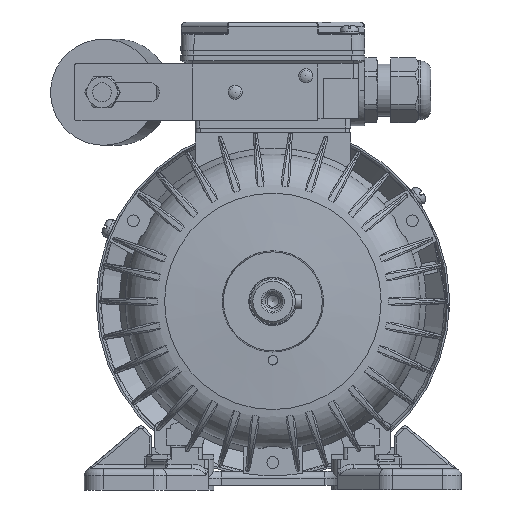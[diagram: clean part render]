
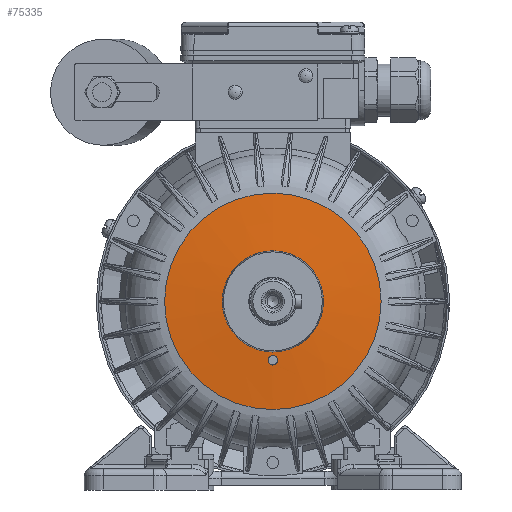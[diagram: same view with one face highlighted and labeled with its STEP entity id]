
A CAD part, left-side view. The second image highlights one B-rep face of the part: STEP entity #75335.
In plain terms, the highlighted conical face has half-angle 85.5 degrees and reference radius 21.472 mm.
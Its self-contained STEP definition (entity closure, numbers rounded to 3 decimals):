
#518=CONICAL_SURFACE('',#79708,21.472,1.492);
#10792=B_SPLINE_CURVE_WITH_KNOTS('',3,(#116865,#116866,#116867,#116868,
#116869,#116870,#116871,#116872,#116873,#116874,#116875),.UNSPECIFIED.,
 .T.,.F.,(1,1,1,1,1,1,1,1,1,1,1,1,1,1,1),(-0.005,-0.003,
-0.002,0.,0.002,0.003,
0.005,0.006,0.008,0.009,
0.011,0.013,0.014,0.016,
0.017),.UNSPECIFIED.);
#21319=ORIENTED_EDGE('',*,*,#33476,.F.);
#21320=ORIENTED_EDGE('',*,*,#33205,.T.);
#21321=ORIENTED_EDGE('',*,*,#33477,.T.);
#33205=EDGE_CURVE('',#40128,#40128,#44050,.T.);
#33476=EDGE_CURVE('',#40244,#40244,#44125,.T.);
#33477=EDGE_CURVE('',#40245,#40245,#10792,.T.);
#40128=VERTEX_POINT('',#113365);
#40244=VERTEX_POINT('',#116864);
#40245=VERTEX_POINT('',#116876);
#44050=CIRCLE('',#79479,45.912);
#44125=CIRCLE('',#79709,21.472);
#46990=EDGE_LOOP('',(#21319));
#46991=EDGE_LOOP('',(#21320));
#46992=EDGE_LOOP('',(#21321));
#50524=FACE_BOUND('',#46990,.T.);
#50525=FACE_BOUND('',#46991,.T.);
#50526=FACE_BOUND('',#46992,.T.);
#75335=ADVANCED_FACE('',(#50524,#50525,#50526),#518,.T.);
#79479=AXIS2_PLACEMENT_3D('',#113364,#89756,#89757);
#79708=AXIS2_PLACEMENT_3D('',#116862,#90307,#90308);
#79709=AXIS2_PLACEMENT_3D('',#116863,#90309,#90310);
#89756=DIRECTION('',(-1.,0.,0.));
#89757=DIRECTION('',(0.,0.,-1.));
#90307=DIRECTION('',(1.,0.,0.));
#90308=DIRECTION('',(0.,0.,1.));
#90309=DIRECTION('',(-1.,0.,0.));
#90310=DIRECTION('',(0.,0.,-1.));
#113364=CARTESIAN_POINT('',(-33.077,0.,0.));
#113365=CARTESIAN_POINT('',(-33.077,0.,-45.912));
#116862=CARTESIAN_POINT('',(-35.,0.,0.));
#116863=CARTESIAN_POINT('',(-35.,0.,0.));
#116864=CARTESIAN_POINT('',(-35.,0.,-21.472));
#116865=CARTESIAN_POINT('',(-34.549,-0.01,-27.218));
#116866=CARTESIAN_POINT('',(-34.596,1.564,-26.571));
#116867=CARTESIAN_POINT('',(-34.714,2.215,-25.007));
#116868=CARTESIAN_POINT('',(-34.841,1.576,-23.442));
#116869=CARTESIAN_POINT('',(-34.899,0.01,-22.782));
#116870=CARTESIAN_POINT('',(-34.843,-1.563,-23.429));
#116871=CARTESIAN_POINT('',(-34.715,-2.215,-24.989));
#116872=CARTESIAN_POINT('',(-34.597,-1.577,-26.558));
#116873=CARTESIAN_POINT('',(-34.549,-0.01,-27.218));
#116874=CARTESIAN_POINT('',(-34.596,1.564,-26.571));
#116875=CARTESIAN_POINT('',(-34.714,2.215,-25.007));
#116876=CARTESIAN_POINT('',(-34.608,1.41,-26.418));
